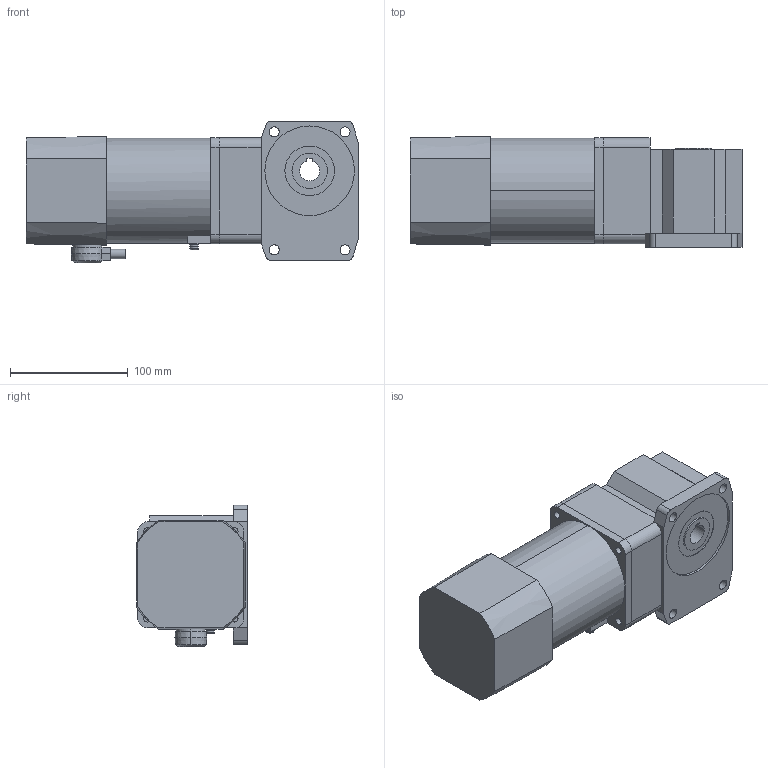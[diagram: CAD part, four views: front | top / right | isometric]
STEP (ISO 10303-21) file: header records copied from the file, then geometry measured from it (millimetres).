
FILE_DESCRIPTION(('starvars output'),'2;1');
FILE_NAME('5RK60GE-CW2ME _ 5GE3.6RH.stp','14:15:42 2015/05/11',( 'Thomas Industrial Network Germany GmbH'),( 'Thomas Industrial Network Germany GmbH'),'unknown preprocess','ACIS' ,'unknown authorization');
FILE_SCHEMA(('AUTOMOTIVE_DESIGN_CC2 {UNKNOWN IMPLEMENTATION LEVEL}'));
Length unit declared in the file: millimetre
Products named in the file (1): PRODUCT_ID_252
Bounding box: 281.5 x 94 x 120 mm (x, y, z)
Volume: 2005868.2 mm3; surface area: 123189 mm2
Topology: 1 solids, 1 shells, 154 faces, 384 edges, 252 vertices
Faces by surface type: plane 80, cylinder 62, cone 10, torus 2
Entity records: 5413 total; most frequent: ORIENTED_EDGE 768, CARTESIAN_POINT 708, DIRECTION 622, EDGE_CURVE 384, VERTEX_POINT 252, VECTOR 212, LINE 212, AXIS2_PLACEMENT_3D 205
